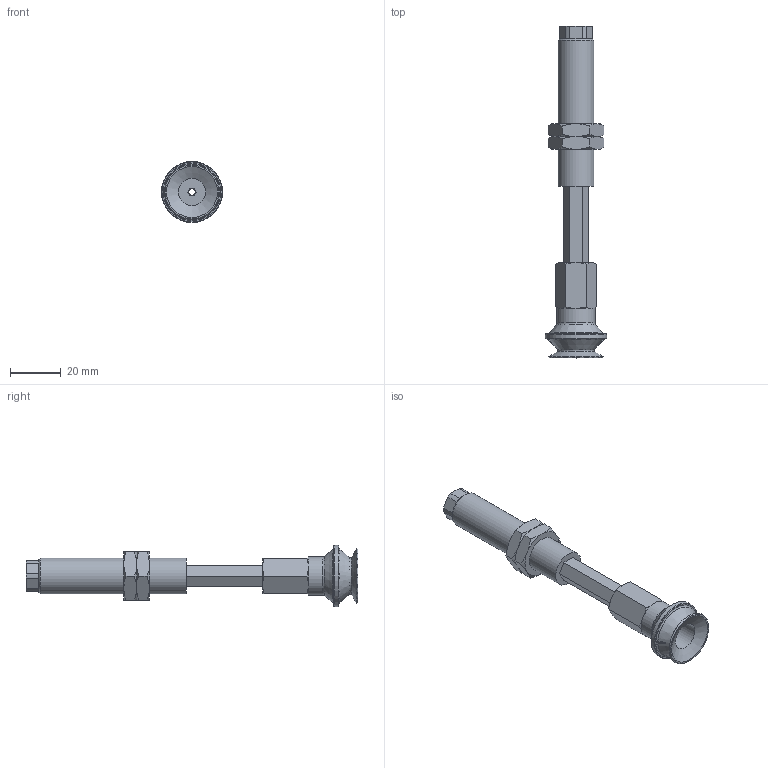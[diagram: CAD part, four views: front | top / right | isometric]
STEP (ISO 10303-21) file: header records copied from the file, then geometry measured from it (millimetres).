
FILE_DESCRIPTION(('STEP AP203'),'1');
FILE_NAME('.stp','2025-08-27T01:00:02',(' '),(' '),'Spatial InterOp 3D',' ',' ');
FILE_SCHEMA(('CONFIG_CONTROL_DESIGN'));
Length unit declared in the file: millimetre
Products named in the file (7): BNABPBTH-20-30-※; ADAPTER; NAPBTH-20-30-MBODY; Adapter20-T-NAPB; Nut-20-S-PB; NAPBTH-20-30-FBODY; BPBG-20-※
Assembly tree (7 placements, depth 2):
  BNABPBTH-20-30-※
    ADAPTER
    NAPBTH-20-30-MBODY
    Adapter20-T-NAPB
    Nut-20-S-PB  x2
    NAPBTH-20-30-FBODY
    BPBG-20-※
Bounding box: 24 x 130.5 x 24 mm (x, y, z)
Volume: 18872.4 mm3; surface area: 14414.2 mm2
Topology: 7 solids, 7 shells, 149 faces, 332 edges, 204 vertices
Faces by surface type: plane 69, cone 51, cylinder 20, torus 9
Full cylindrical faces by diameter (mm): 2.5 x1, 3 x2, 4.134 x2, 4.6 x1, 5 x1, 10.8 x1, 11 x1, 12.917 x2, 14 x1, 15 x1, 24 x1
Entity records: 3862 total; most frequent: CARTESIAN_POINT 880, DIRECTION 556, ORIENTED_EDGE 486, EDGE_CURVE 243, AXIS2_PLACEMENT_3D 227, EDGE_LOOP 176, VERTEX_POINT 167, FACE_OUTER_BOUND 146
